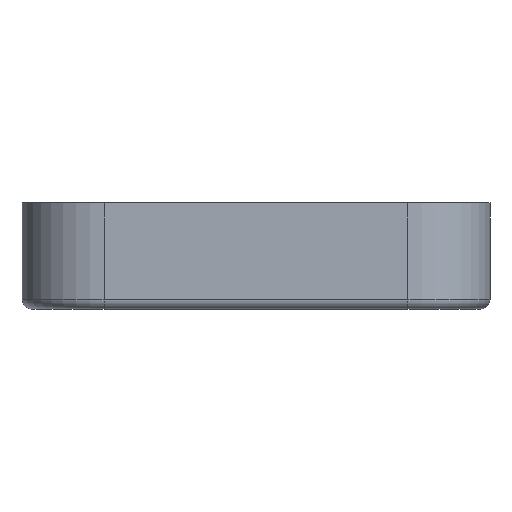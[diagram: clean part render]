
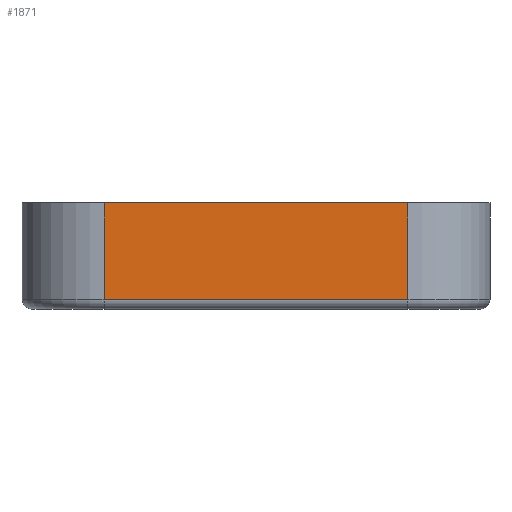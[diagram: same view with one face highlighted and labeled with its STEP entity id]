
A CAD part, left-side view. The second image highlights one B-rep face of the part: STEP entity #1871.
In plain terms, the highlighted planar face has unit normal (-1, 0, 0).
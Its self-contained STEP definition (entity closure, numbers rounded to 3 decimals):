
#173=FACE_OUTER_BOUND('',#283,.T.);
#283=EDGE_LOOP('',(#1667,#1668,#1669,#1670));
#480=LINE('',#2953,#708);
#510=LINE('',#3047,#738);
#512=LINE('',#3054,#740);
#513=LINE('',#3055,#741);
#708=VECTOR('',#2402,10.);
#738=VECTOR('',#2512,10.);
#740=VECTOR('',#2524,10.);
#741=VECTOR('',#2525,10.);
#876=VERTEX_POINT('',#2945);
#878=VERTEX_POINT('',#2951);
#900=VERTEX_POINT('',#3041);
#902=VERTEX_POINT('',#3045);
#1109=EDGE_CURVE('',#878,#876,#480,.T.);
#1158=EDGE_CURVE('',#902,#900,#510,.T.);
#1160=EDGE_CURVE('',#878,#900,#512,.T.);
#1161=EDGE_CURVE('',#876,#902,#513,.T.);
#1667=ORIENTED_EDGE('',*,*,#1109,.F.);
#1668=ORIENTED_EDGE('',*,*,#1160,.T.);
#1669=ORIENTED_EDGE('',*,*,#1158,.F.);
#1670=ORIENTED_EDGE('',*,*,#1161,.F.);
#1767=PLANE('',#2023);
#1871=ADVANCED_FACE('',(#173),#1767,.T.);
#2023=AXIS2_PLACEMENT_3D('',#3053,#2522,#2523);
#2402=DIRECTION('',(0.,1.,0.));
#2512=DIRECTION('',(0.,-1.,0.));
#2522=DIRECTION('center_axis',(-1.,0.,0.));
#2523=DIRECTION('ref_axis',(0.,-1.,0.));
#2524=DIRECTION('',(0.,0.,1.));
#2525=DIRECTION('',(0.,0.,1.));
#2945=CARTESIAN_POINT('',(0.,80.,2.));
#2951=CARTESIAN_POINT('',(0.,17.,2.));
#2953=CARTESIAN_POINT('',(0.,64.25,2.));
#3041=CARTESIAN_POINT('',(0.,17.,22.));
#3045=CARTESIAN_POINT('',(0.,80.,22.));
#3047=CARTESIAN_POINT('',(0.,80.,22.));
#3053=CARTESIAN_POINT('Origin',(0.,80.,0.));
#3054=CARTESIAN_POINT('',(0.,17.,0.));
#3055=CARTESIAN_POINT('',(0.,80.,0.));
